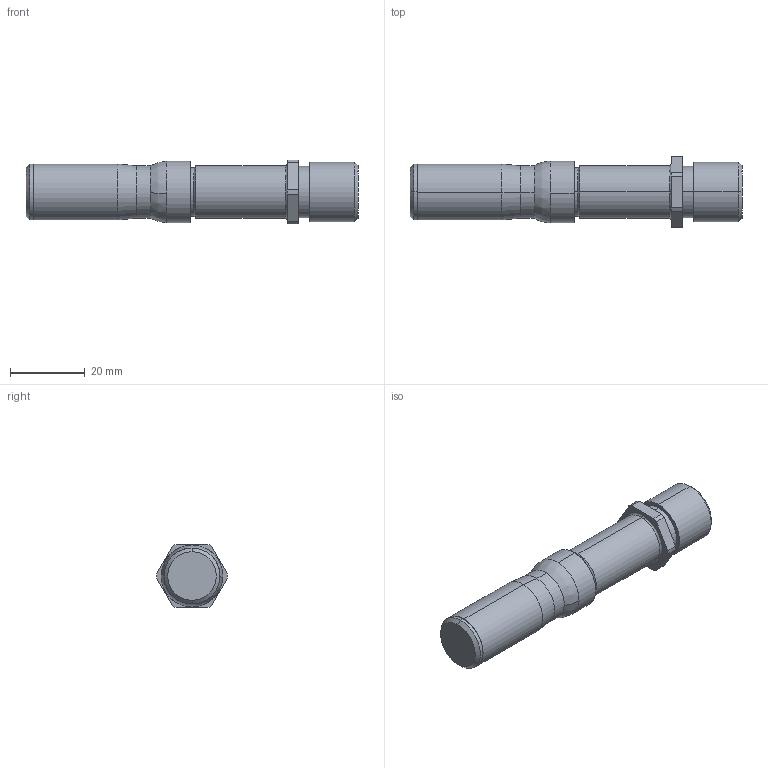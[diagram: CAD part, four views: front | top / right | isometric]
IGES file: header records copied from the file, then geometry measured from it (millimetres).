
Start section: SolidWorks IGES file using analytic representation for surfaces
Global section: file name: Z:\7-3D図面\02.3Dデータ(提出用)\電子カタログ\Ｓ／Ａ\FES\FES-1625.IGS; native system: SolidWorks 2015; preprocessor: SolidWorks 2015; author: flgijutsu02; date: 150615.134135; units: millimetre
Bounding box: 89 x 19 x 17 mm (x, y, z)
Surface area: 5431.8 mm2 (no closed solid volume)
Topology: 0 solids, 0 shells, 53 faces, 656 edges, 656 vertices
Faces by surface type: revolution 36, bspline 17
